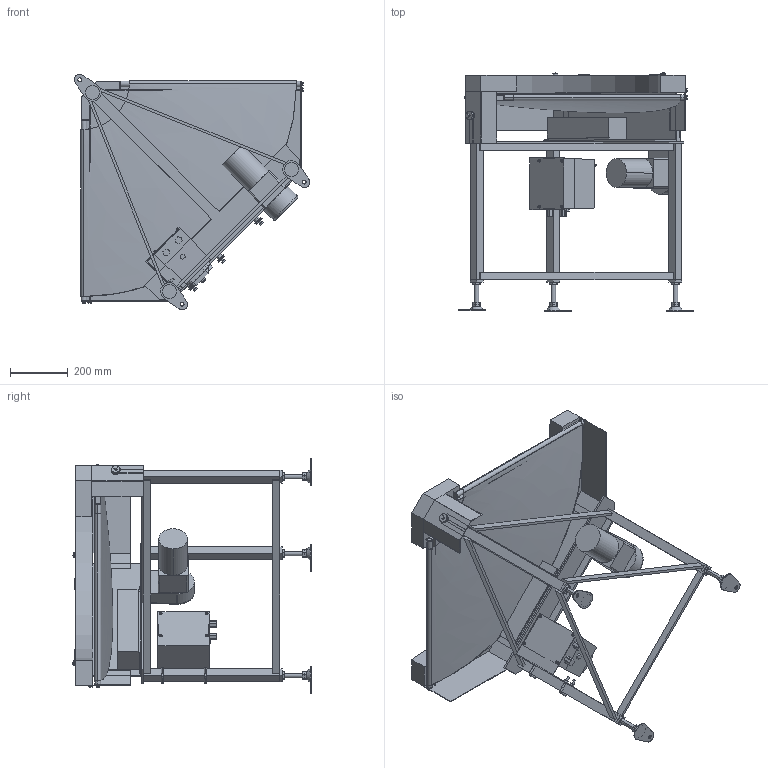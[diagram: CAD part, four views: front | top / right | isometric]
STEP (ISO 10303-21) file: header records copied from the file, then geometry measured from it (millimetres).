
FILE_DESCRIPTION (( 'STEP AP214' ), '1' );
FILE_NAME ('GFBC90-UD500-R.STEP', '2024-01-18T04:00:23', ( '' ), ( '' ), 'SwSTEP 2.0', 'SolidWorks 2017', '' );
FILE_SCHEMA (( 'AUTOMOTIVE_DESIGN' ));
Length unit declared in the file: millimetre
Products named in the file (1): GFBC90-UD500-R
Bounding box: 818.17 x 827.92 x 818.17 mm (x, y, z)
Volume: 24342709.3 mm3; surface area: 4998203.6 mm2
Topology: 53 solids, 54 shells, 1125 faces, 2628 edges, 1688 vertices
Faces by surface type: plane 700, cylinder 316, cone 53, bspline 44, torus 8, sphere 4
Entity records: 39511 total; most frequent: CARTESIAN_POINT 13126, DIRECTION 5289, ORIENTED_EDGE 5224, EDGE_CURVE 2612, AXIS2_PLACEMENT_3D 1804, VERTEX_POINT 1688, LINE 1681, VECTOR 1681
